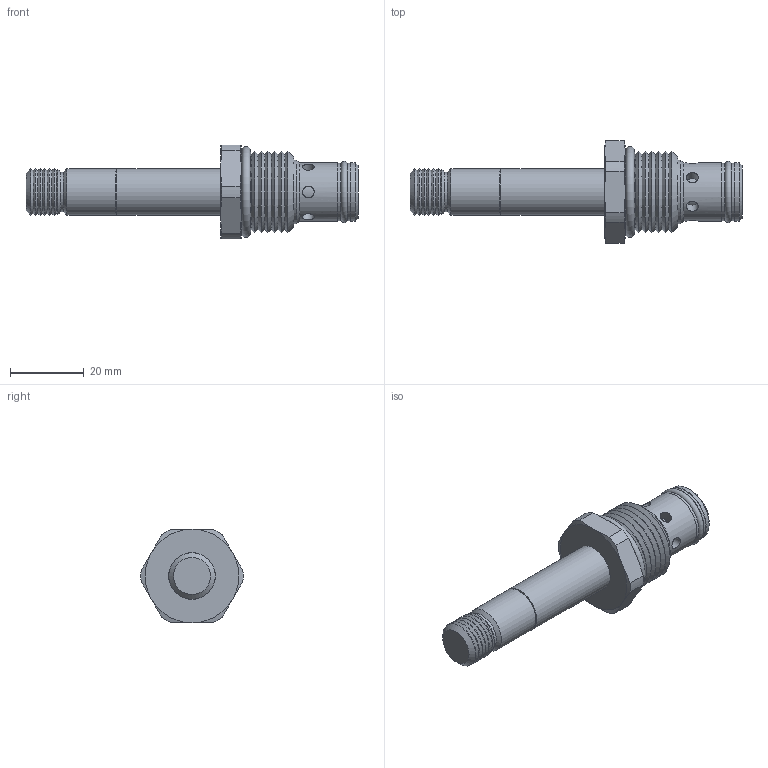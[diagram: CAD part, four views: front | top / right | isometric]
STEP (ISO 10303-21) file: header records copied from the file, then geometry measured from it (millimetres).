
FILE_DESCRIPTION((''),'2;1');
FILE_NAME('Q:\Solid model CD\Solid model full\Solenoid\STEP\DES2H00-3D Full.stp','2009-06-01T09:24:46',('Dan'),(''),'Autodesk Inventor 2009','Autodesk Inventor 2009','');
FILE_SCHEMA(('AUTOMOTIVE_DESIGN { 1 0 10303 214 1 1 1 1 }'));
Length unit declared in the file: inch
Products named in the file (6): DES2H00-3D Full; DES2H00-3D Full1; DES2H00-3D Full2; DES2H00-3D Full3; DES2H00-3D Full4; DES2H00-3D Full5
Assembly tree (5 placements, depth 2):
  DES2H00-3D Full
    DES2H00-3D Full1
    DES2H00-3D Full2
    DES2H00-3D Full3
    DES2H00-3D Full4
    DES2H00-3D Full5
Bounding box: 90.11 x 27.74 x 25.4 mm (x, y, z)
Volume: 17324.8 mm3; surface area: 7929.9 mm2
Topology: 5 solids, 5 shells, 113 faces, 215 edges, 127 vertices
Faces by surface type: cone 45, cylinder 37, plane 26, bspline 3, torus 2
Full cylindrical faces by diameter (mm): 3.175 x6, 8.506 x2, 9.522 x3, 9.53 x1, 10.668 x1, 10.998 x1, 12.586 x1, 12.675 x1, 13.005 x1, 13.043 x2, 15.685 x2, 15.748 x2, 17.323 x1, 19.624 x1
Entity records: 3140 total; most frequent: CARTESIAN_POINT 972, DIRECTION 456, ORIENTED_EDGE 298, AXIS2_PLACEMENT_3D 222, EDGE_LOOP 198, EDGE_CURVE 149, VERTEX_POINT 123, FACE_OUTER_BOUND 113
